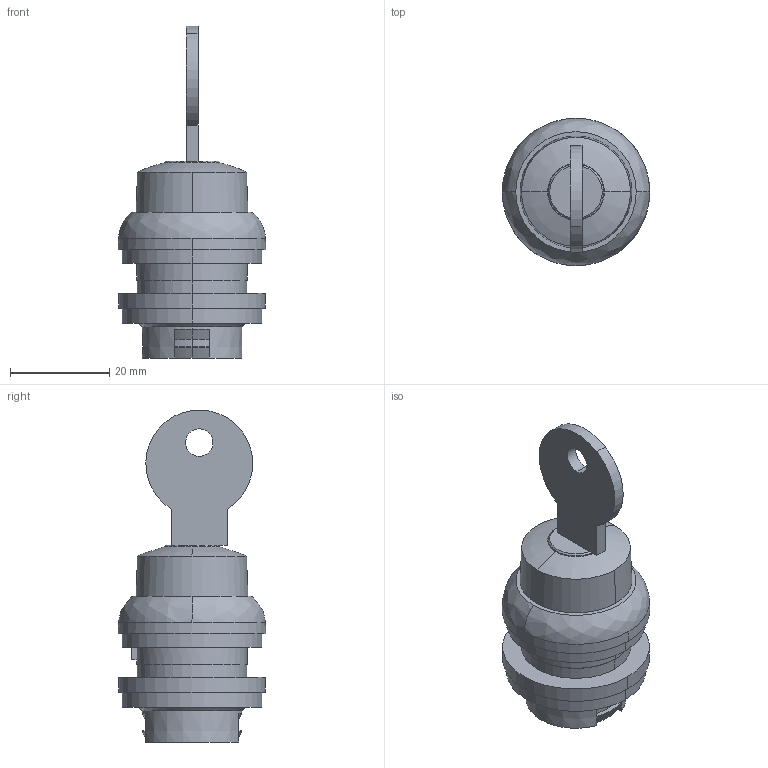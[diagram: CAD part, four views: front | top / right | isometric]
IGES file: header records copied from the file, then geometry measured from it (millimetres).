
Start section: Data from XPlus IGES,  Spatial Corp. Copyright (c) 1999-2004
Global section: file name: 111790.igs; native system:  By Spatial Corp.; preprocessor: XPlus ACIS/IGES 3.0; author: Noname; organization: Noname; date: 20120529.221620; units: millimetre
Bounding box: 29.7 x 29.7 x 66.75 mm (x, y, z)
Surface area: 5733.1 mm2 (no closed solid volume)
Topology: 0 solids, 0 shells, 75 faces, 368 edges, 368 vertices
Faces by surface type: revolution 42, extrusion 33
